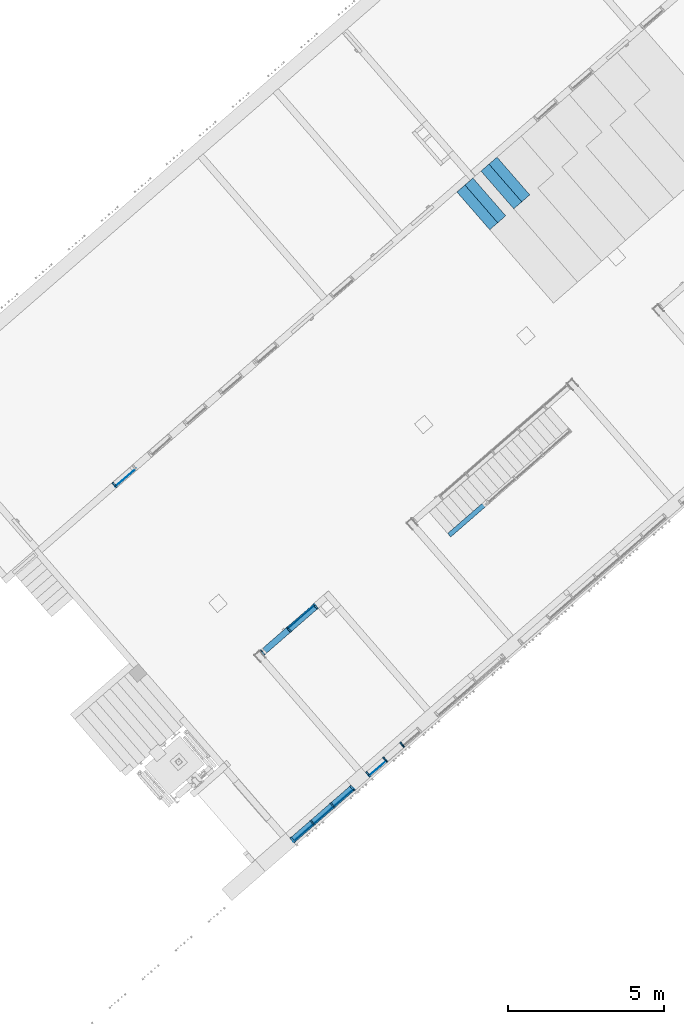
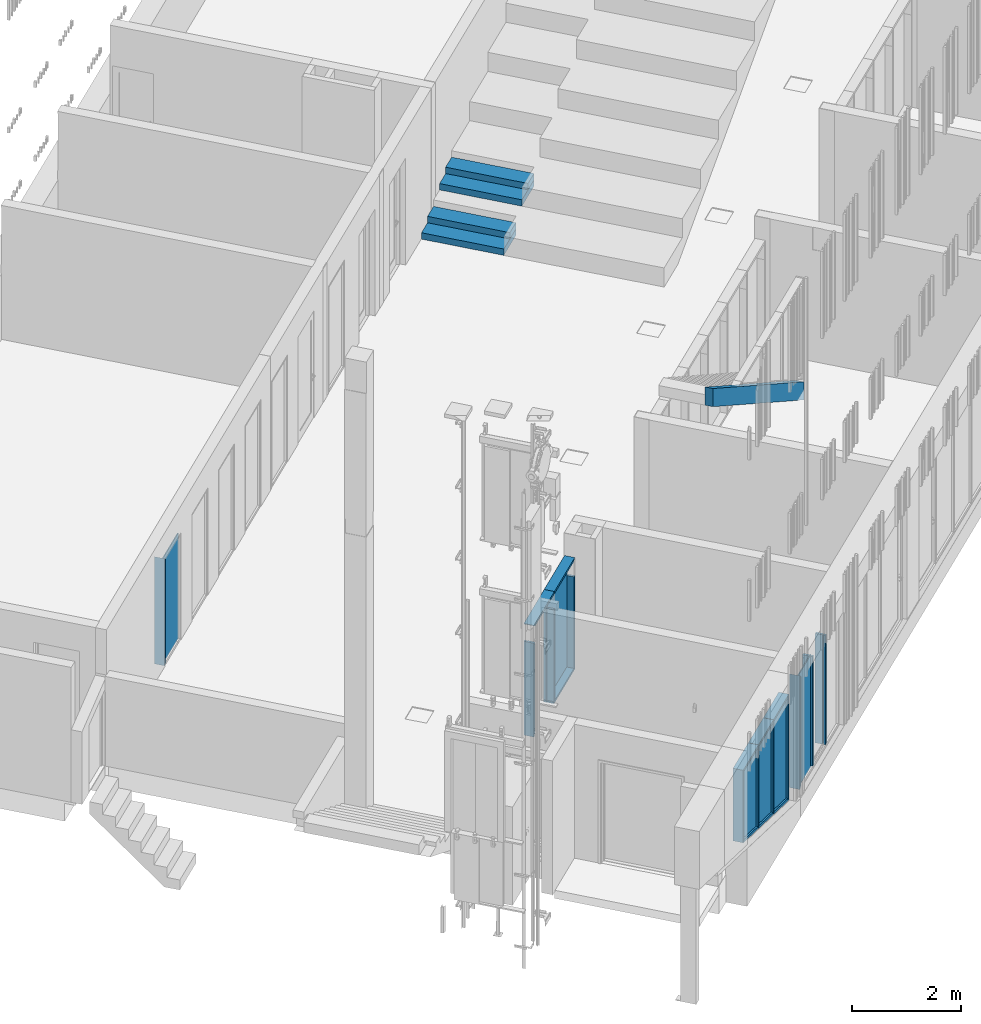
# One storey, part 5 of 124: 26 discrete accessories, 5 stairs, 5 elements without a shape of their own.
"""IFC2X3 building model written with IfcOpenShell, lengths in millimetres."""

from ifc_helpers import new_model, entity, si_unit, converted_unit, derived_unit, money_unit, direction, frame, origin_with_axes, place, context, subcontext, project, spatial, polyline, outline, extrude, clip, halfspace, faceted_brep, material, material_list, type_object, element, aggregate, save


model = new_model("IFC2X3")

# Units and contexts
model_context = context("Model", 3, precision=1e-05, world=origin_with_axes(), true_north=direction((0.0, 1.0)))
body_context = subcontext(model_context, "Body", "Model", "MODEL_VIEW")
ifc_project = project(units=[si_unit("LENGTHUNIT", "METRE", prefix="MILLI"), si_unit("AREAUNIT", "SQUARE_METRE"), si_unit("VOLUMEUNIT", "CUBIC_METRE"), converted_unit("PLANEANGLEUNIT", "DEGREE", entity("IfcPlaneAngleMeasure", 0.0174532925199), si_unit("PLANEANGLEUNIT", "RADIAN"), dimensions=[0, 0, 0, 0, 0, 0, 0]), si_unit("SOLIDANGLEUNIT", "STERADIAN"), money_unit("EUR"), converted_unit("TIMEUNIT", "Year", entity("IfcTimeMeasure", 31556926.0), si_unit("TIMEUNIT", "SECOND"), dimensions=[0, 0, 1, 0, 0, 0, 0]), si_unit("MASSUNIT", "GRAM", prefix="KILO"), si_unit("THERMODYNAMICTEMPERATUREUNIT", "DEGREE_CELSIUS"), si_unit("LUMINOUSINTENSITYUNIT", "LUMEN"), si_unit("ENERGYUNIT", "JOULE", prefix="MEGA"), derived_unit("THERMALCONDUCTANCEUNIT", [(si_unit("POWERUNIT", "WATT"), 1), (si_unit("LENGTHUNIT", "METRE"), -1), (si_unit("THERMODYNAMICTEMPERATUREUNIT", "KELVIN"), -1)]), derived_unit("SPECIFICHEATCAPACITYUNIT", [(si_unit("ENERGYUNIT", "JOULE"), 1), (si_unit("MASSUNIT", "GRAM", prefix="KILO"), -1), (si_unit("THERMODYNAMICTEMPERATUREUNIT", "KELVIN"), -1)]), derived_unit("MASSDENSITYUNIT", [(si_unit("MASSUNIT", "GRAM", prefix="KILO"), 1), (si_unit("VOLUMEUNIT", "CUBIC_METRE"), -1)])], contexts=[model_context])

# Site, building, storey
site_placement = place(None, origin_with_axes())
site = spatial("IfcSite", under=ifc_project, at=site_placement, Name="Site", CompositionType="ELEMENT")
building_placement = place(site_placement, origin_with_axes())
building = spatial("IfcBuilding", under=site, at=building_placement, Name="Building", CompositionType="ELEMENT")
storey_placement = place(building_placement, frame((0.0, 0.0, -1615.0), z_axis=(0.0, 0.0, 1.0), x_axis=(1.0, 0.0, 0.0)))
storey = spatial("IfcBuildingStorey", under=building, at=storey_placement, Name="0  korrus", CompositionType="ELEMENT", Elevation=-1615.0)

# Stairs
stair_1_placement = place(storey_placement, frame((159587.108778, 89137.2805139, 0.0), z_axis=(0.0, 0.0, 1.0), x_axis=(0.00233643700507, -0.999997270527, 0.0)))
stair_1 = element("IfcStair", 1, at=stair_1_placement, inside=storey, Name="T-05", ShapeType="NOTDEFINED")
ifc_material_1 = material(Name="GENEERILINE - KONSTRUKTRIOON")
stair_2_placement = place(stair_1_placement, origin_with_axes())
stair_2 = element("IfcStair", 2, at=stair_2_placement, material=ifc_material_1, Name="T-05", ShapeType="NOTDEFINED", context=body_context, shape_type="Brep", body=[
    faceted_brep([(3356.52774379, -3879.51305, 3007.98255963), (3356.52774379, -3879.51305, 3415.0), (0.0, 0.0, 170.75), (0.0, 0.0, -236.267440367), (3469.96379789, -3781.36896393, 3415.0), (3469.96379789, -3781.36896393, 3007.98255963), (113.436054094, 98.1440860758, 170.75), (113.436054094, 98.1440860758, -236.267440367)], [[[0, 1, 2, 3]], [[4, 1, 0, 5]], [[1, 4, 6, 2]], [[2, 6, 7, 3]], [[5, 0, 3, 7]], [[4, 5, 7, 6]]]),
])
aggregate(stair_1, [stair_2])

stair_3_placement = place(storey_placement, frame((156524.679636, 97141.5060753, 142.0), z_axis=(0.0, 0.0, 1.0), x_axis=(1.0, 0.0, 0.0)))
element("IfcStair", 3, at=stair_3_placement, inside=storey, material=ifc_material_1, Name="GENEERILINE - KONSTRUKTRIOON", ShapeType="NOTDEFINED", context=body_context, shape_type="SweptSolid", body=[
    extrude(outline(polyline([(0.0, 0.0), (-513.2025186, -446.120135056), (536.491914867, -1653.65547464), (1049.69443091, -1207.53533664), (0.0, 0.0)])), frame((0.0, 0.0, -142.0), z_axis=(0.0, 0.0, 1.0), x_axis=(1.0, 0.0, 0.0)), (0.0, 0.0, 1.0), 142.0),
])
stair_4_placement = place(storey_placement, frame((156524.679638, 97141.5060737, 284.0), z_axis=(0.0, 0.0, 1.0), x_axis=(1.0, 0.0, 0.0)))
element("IfcStair", 4, at=stair_4_placement, inside=storey, material=ifc_material_1, Name="GENEERILINE - KONSTRUKTRIOON", ShapeType="NOTDEFINED", context=body_context, shape_type="SweptSolid", body=[
    extrude(outline(polyline([(0.0, 0.0), (-256.601258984, -223.060067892), (793.093174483, -1430.59540748), (1049.6944295, -1207.53533502), (0.0, 0.0)])), frame((0.0, 0.0, -142.0), z_axis=(0.0, 0.0, 1.0), x_axis=(1.0, 0.0, 0.0)), (0.0, 0.0, 1.0), 142.0),
])
stair_5_placement = place(storey_placement, frame((157294.483414, 97810.686249, 568.875), z_axis=(0.0, 0.0, 1.0), x_axis=(1.0, 0.0, 0.0)))
element("IfcStair", 5, at=stair_5_placement, inside=storey, material=ifc_material_1, Name="GENEERILINE - KONSTRUKTRIOON", ShapeType="NOTDEFINED", context=body_context, shape_type="SweptSolid", body=[
    extrude(outline(polyline([(0.0, 0.0), (-513.2025186, -446.120135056), (536.491914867, -1653.65547464), (1049.69443091, -1207.53533664), (0.0, 0.0)])), frame((0.0, 0.0, -142.0), z_axis=(0.0, 0.0, 1.0), x_axis=(1.0, 0.0, 0.0)), (0.0, 0.0, 1.0), 142.0),
])
stair_6_placement = place(storey_placement, frame((157294.483416, 97810.6862474, 710.875), z_axis=(0.0, 0.0, 1.0), x_axis=(1.0, 0.0, 0.0)))
element("IfcStair", 6, at=stair_6_placement, inside=storey, material=ifc_material_1, Name="GENEERILINE - KONSTRUKTRIOON", ShapeType="NOTDEFINED", context=body_context, shape_type="SweptSolid", body=[
    extrude(outline(polyline([(0.0, 0.0), (-256.601258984, -223.060067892), (793.093174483, -1430.59540748), (1049.6944295, -1207.53533502), (0.0, 0.0)])), frame((0.0, 0.0, -142.0), z_axis=(0.0, 0.0, 1.0), x_axis=(1.0, 0.0, 0.0)), (0.0, 0.0, 1.0), 142.0),
])

# Curtain wall, discrete accessories
curtain_wall_type_1 = type_object("IfcCurtainWallType", Name="KS-07", PredefinedType="NOTDEFINED")
curtain_wall_1_placement = place(storey_placement, frame((145489.197566, 87628.0086428, -0.000131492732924), z_axis=(0.0, 0.0, 1.0), x_axis=(1.0, 0.0, 0.0)))
curtain_wall_1 = element("IfcCurtainWall", 7, at=curtain_wall_1_placement, inside=storey, type_object=curtain_wall_type_1, Name="Klaas-sein")
ifc_material_2 = material(Name="Klaas")
discrete_accessory_type_1 = type_object("IfcDiscreteAccessoryType", Name="Distinct Panel 730 x 2360 x 20")
discrete_accessory_1_placement = place(curtain_wall_1_placement, frame((0.0, 0.0, 1200.00000894), z_axis=(0.0, 0.0, 1.0), x_axis=(-0.754709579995, -0.656059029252, 0.0)))
discrete_accessory_1 = element("IfcDiscreteAccessory", 8, at=discrete_accessory_1_placement, type_object=discrete_accessory_type_1, material=ifc_material_2, Name="KS-07 klaaspakett", context=body_context, shape_type="SweptSolid", body=[
    extrude(outline(polyline([(-330.000032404, -1180.00000879), (530.000009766, -1180.00000879), (530.000009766, 1180.00000879), (-330.000032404, 1180.00000879), (-330.000032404, -1180.00000879)])), frame((0.0, -10.0, 0.0), z_axis=(0.0, 1.0, 0.0), x_axis=(1.0, 0.0, 0.0)), (0.0, 0.0, 1.0), 20.0),
])
ifc_material_3 = material(Name="Aluminium MUST")
ifc_material_list_1 = material_list([ifc_material_3, ifc_material_3, ifc_material_3])
discrete_accessory_type_2 = type_object("IfcDiscreteAccessoryType", Name="50 x 200")
discrete_accessory_2_placement = place(curtain_wall_1_placement, frame((-415.090276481, -360.832472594, 0.0), z_axis=(0.0, 0.0, 1.0), x_axis=(-0.754709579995, -0.656059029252, 0.0)))
discrete_accessory_2 = element("IfcDiscreteAccessory", 9, at=discrete_accessory_2_placement, type_object=discrete_accessory_type_2, material=ifc_material_list_1, Name="KS-07 profiil", context=body_context, shape_type="Clipping", body=[
    clip(clip(extrude(outline(polyline([(12.3071492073, 23.9485715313), (-6.56059029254, 7.54709579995), (6.56059029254, -7.54709579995), (25.4283297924, 8.85437993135), (12.3071492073, 23.9485715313)])), frame((0.0, 0.0, 0.0), z_axis=(0.0, 0.0, 1.0), x_axis=(-0.754709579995, 0.656059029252, 0.0)), (0.0, 0.0, 1.0), 2400.00001788), halfspace(frame((0.0, 0.0, 0.0), z_axis=(0.707106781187, 0.0, 0.707106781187), x_axis=(0.0, -1.0, 0.0)), True)), halfspace(frame((-1200.00000894, 0.0, 1200.00000894), z_axis=(0.707106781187, 0.0, -0.707106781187), x_axis=(0.0, 1.0, 0.0)), True)),
    clip(clip(extrude(outline(polyline([(-60.6733753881, 146.009388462), (-98.4088543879, 113.206436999), (-6.56059029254, 7.54709579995), (31.1748887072, 40.3500472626), (-60.6733753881, 146.009388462)])), frame((0.0, 0.0, 0.0), z_axis=(0.0, 0.0, 1.0), x_axis=(-0.754709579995, 0.656059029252, 0.0)), (0.0, 0.0, 1.0), 2400.00001788), halfspace(frame((0.0, 0.0, 0.0), z_axis=(0.707106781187, 0.0, 0.707106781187), x_axis=(0.0, -1.0, 0.0)), True)), halfspace(frame((-1200.00000894, 0.0, 1200.00000894), z_axis=(0.707106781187, 0.0, -0.707106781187), x_axis=(0.0, 1.0, 0.0)), True)),
    clip(clip(extrude(outline(polyline([(32.8029514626, -37.7354789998), (70.5384304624, -4.93252753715), (44.2960692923, 25.2558556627), (6.56059029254, -7.54709579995), (32.8029514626, -37.7354789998)])), frame((0.0, 0.0, 0.0), z_axis=(0.0, 0.0, 1.0), x_axis=(-0.754709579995, 0.656059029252, 0.0)), (0.0, 0.0, 1.0), 2400.00001788), halfspace(frame((0.0, 0.0, 0.0), z_axis=(0.707106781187, 0.0, 0.707106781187), x_axis=(0.0, -1.0, 0.0)), True)), halfspace(frame((-1200.00000894, 0.0, 1200.00000894), z_axis=(0.707106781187, 0.0, -0.707106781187), x_axis=(0.0, 1.0, 0.0)), True)),
])
aggregate(curtain_wall_1, [discrete_accessory_1, discrete_accessory_2])

curtain_wall_type_2 = type_object("IfcCurtainWallType", Name="KLF-07", PredefinedType="NOTDEFINED")
curtain_wall_2_placement = place(storey_placement, frame((152393.636083, 77319.0359362, 179.611883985), z_axis=(0.0, 0.0, 1.0), x_axis=(1.0, 0.0, 0.0)))
curtain_wall_2 = element("IfcCurtainWall", 10, at=curtain_wall_2_placement, inside=storey, type_object=curtain_wall_type_2, Name="Klaasfassaad")
discrete_accessory_type_3 = type_object("IfcDiscreteAccessoryType", Name="Distinct Panel 845 x 2079 x 20")
discrete_accessory_3_placement = place(curtain_wall_2_placement, frame((0.0, 0.0, 1247.63907863), z_axis=(0.0, 0.0, 1.0), x_axis=(-0.754709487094, -0.656059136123, 0.0)))
discrete_accessory_3 = element("IfcDiscreteAccessory", 11, at=discrete_accessory_3_placement, type_object=discrete_accessory_type_3, material=ifc_material_2, Name="KLF-07 klaaspakett", context=body_context, shape_type="SweptSolid", body=[
    extrude(outline(polyline([(-412.446964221, -1102.36088663), (432.446965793, -1102.36088663), (432.446965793, 976.260358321), (-412.446964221, 1221.02280493), (-412.446964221, -1102.36088663)])), frame((0.0, -9.99999999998, 0.0), z_axis=(0.0, 1.0, 0.0), x_axis=(1.0, 0.0, 0.0)), (0.0, 0.0, 1.0), 20.0),
])
discrete_accessory_type_4 = type_object("IfcDiscreteAccessoryType", Name="Distinct Panel 850 x 1832 x 20")
discrete_accessory_4_placement = place(curtain_wall_2_placement, frame((-647.123359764, -562.53591565, 1371.83855172), z_axis=(0.0, 0.0, 1.0), x_axis=(-0.754709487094, -0.656059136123, 0.0)))
discrete_accessory_4 = element("IfcDiscreteAccessory", 12, at=discrete_accessory_4_placement, type_object=discrete_accessory_type_4, material=ifc_material_2, Name="KLF-07 klaaspakett", context=body_context, shape_type="SweptSolid", body=[
    extrude(outline(polyline([(-425.000005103, -978.161405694), (425.000000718, -978.161405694), (425.000000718, 854.21832759), (-425.000005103, 1100.45984919), (-425.000005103, -978.161405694)])), frame((0.0, -10.0, 0.0), z_axis=(0.0, 1.0, 0.0), x_axis=(1.0, 0.0, 0.0)), (0.0, 0.0, 1.0), 20.0),
])
discrete_accessory_type_5 = type_object("IfcDiscreteAccessoryType", Name="Distinct Panel 845 x 1832 x 20")
discrete_accessory_5_placement = place(curtain_wall_2_placement, frame((-1294.3031102, -1125.12085098, 1496.05222112), z_axis=(0.0, 0.0, 1.0), x_axis=(-0.754709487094, -0.656059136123, 0.0)))
discrete_accessory_5 = element("IfcDiscreteAccessory", 13, at=discrete_accessory_5_placement, type_object=discrete_accessory_type_5, material=ifc_material_2, Name="KLF-07 klaaspakett", context=body_context, shape_type="SweptSolid", body=[
    extrude(outline(polyline([(-432.521693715, -853.947756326), (412.475697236, -853.947756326), (412.567977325, 733.613027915), (-432.521693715, 978.431993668), (-432.521693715, -853.947756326)])), frame((0.0, -10.0, 0.0), z_axis=(0.0, 1.0, 0.0), x_axis=(1.0, 0.0, 0.0)), (0.0, 0.0, 1.0), 20.0),
])
discrete_accessory_type_6 = type_object("IfcDiscreteAccessoryType", Name="50 x 200")
discrete_accessory_6_placement = place(curtain_wall_2_placement, frame((-1620.76691408, -1408.91158743, 747.411051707), z_axis=(0.724903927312, 0.630149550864, -0.278254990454), x_axis=(0.210001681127, 0.182551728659, 0.960507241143)))
discrete_accessory_6 = element("IfcDiscreteAccessory", 14, at=discrete_accessory_6_placement, type_object=discrete_accessory_type_6, material=ifc_material_3, Name="KLF-07 profiil", context=body_context, shape_type="Clipping", body=[
    clip(extrude(outline(polyline([(-10.0, -25.0), (10.0, -25.0), (9.99999999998, -50.0), (50.0, -50.0), (50.0, 0.0), (-150.0, 0.0), (-150.0, -50.0), (-10.0, -50.0), (-10.0, -25.0)])), frame((0.0, 0.0, 0.0), z_axis=(0.0, 0.0, 1.0), x_axis=(0.0, 1.0, 0.0)), (0.0, 0.0, 1.0), 900.660071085), halfspace(frame((0.0, 0.0, 0.0), z_axis=(-0.600749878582, 0.0, 0.799437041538), x_axis=(0.0, -1.0, 0.0)), True)),
])
discrete_accessory_7_placement = place(curtain_wall_2_placement, frame((-326.371827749, -283.710782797, 2369.9999702), z_axis=(-0.754709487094, -0.656059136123, 0.0), x_axis=(0.0, 0.0, -1.0)))
discrete_accessory_7 = element("IfcDiscreteAccessory", 15, at=discrete_accessory_7_placement, type_object=discrete_accessory_type_6, material=ifc_material_3, Name="KLF-07 profiil", context=body_context, shape_type="SweptSolid", body=[
    extrude(outline(polyline([(9.99999999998, 25.0), (-10.0, 25.0), (-10.0, 50.0), (-50.0, 50.0), (-50.0, 0.0), (150.0, 0.0), (150.0, 50.0), (9.99999999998, 50.0), (9.99999999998, 25.0)])), frame((0.0, 0.0, 0.0), z_axis=(0.0, 0.0, 1.0), x_axis=(0.0, -1.0, 0.0)), (0.0, 0.0, 1.0), 850.0),
])
discrete_accessory_8_placement = place(curtain_wall_2_placement, frame((326.371827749, 283.710782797, 0.0), z_axis=(0.0, 0.0, 1.0), x_axis=(-0.754709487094, -0.656059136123, 0.0)))
discrete_accessory_8 = element("IfcDiscreteAccessory", 16, at=discrete_accessory_8_placement, type_object=discrete_accessory_type_6, material=ifc_material_3, Name="KLF-07 profiil", context=body_context, shape_type="Clipping", body=[
    clip(clip(extrude(outline(polyline([(-25.4283285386, -8.85438353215), (-12.3071458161, -23.948573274), (-31.1748829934, -40.3500516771), (-4.9325175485, -70.5384311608), (32.8029568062, -37.7354743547), (-98.4088704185, 113.206423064), (-136.144344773, 80.4034662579), (-44.2960657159, -25.2558619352), (-25.4283285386, -8.85438353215)])), frame((0.0, 0.0, 0.0), z_axis=(0.0, 0.0, 1.0), x_axis=(-0.754709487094, 0.656059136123, 0.0)), (0.0, 0.0, 1.0), 2369.9999702), halfspace(frame((1184.9999851, 0.0, 1184.9999851), z_axis=(-0.707106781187, 0.0, -0.707106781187), x_axis=(0.0, 1.0, 0.0)), True)), halfspace(frame((0.0, 0.0, 0.0), z_axis=(-0.799454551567, 0.0, 0.600726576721), x_axis=(0.0, -1.0, 0.0)), True)),
])
discrete_accessory_9_placement = place(curtain_wall_2_placement, frame((-967.874891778, -841.361048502, 496.797892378), z_axis=(0.724903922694, 0.630149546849, -0.27825501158), x_axis=(0.210001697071, 0.182551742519, 0.960507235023)))
discrete_accessory_9 = element("IfcDiscreteAccessory", 17, at=discrete_accessory_9_placement, type_object=discrete_accessory_type_6, material=ifc_material_3, Name="KLF-07 profiil", context=body_context, shape_type="SweptSolid", body=[
    extrude(outline(polyline([(-9.99999999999, -25.0), (10.0, -25.0), (10.0, -50.0), (50.0, -50.0), (50.0, 0.0), (-150.0, 0.0), (-150.0, -50.0), (-9.99999999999, -50.0), (-9.99999999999, -25.0)])), frame((0.0, 0.0, -5.49846390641e-07), z_axis=(0.0, 0.0, 1.0), x_axis=(0.0, 1.0, 0.0)), (0.0, 0.0, 1.0), 884.949090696),
])
ifc_material_list_2 = material_list([ifc_material_3, ifc_material_3])
discrete_accessory_10_placement = place(curtain_wall_2_placement, frame((-967.874891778, -841.361048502, 496.797892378), z_axis=(0.0, 0.0, 1.0), x_axis=(-0.754709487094, -0.656059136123, 0.0)))
discrete_accessory_10 = element("IfcDiscreteAccessory", 18, at=discrete_accessory_10_placement, type_object=discrete_accessory_type_6, material=ifc_material_list_2, Name="KLF-07 profiil", context=body_context, shape_type="Clipping", body=[
    clip(extrude(outline(polyline([(-117.276607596, 96.8049446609), (-25.4283285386, -8.85438353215), (12.3071458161, 23.948573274), (-79.5411332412, 129.607901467), (-117.276607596, 96.8049446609)])), frame((0.0, 0.0, 44.8134310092), z_axis=(0.0, 0.0, 1.0), x_axis=(-0.754709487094, 0.656059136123, 0.0)), (0.0, 0.0, 1.0), 1778.38864681), halfspace(frame((-13.912750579, 0.0, 48.0253617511), z_axis=(-0.27825501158, 0.0, 0.960507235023), x_axis=(0.0, -1.0, 0.0)), True)),
    clip(extrude(outline(polyline([(51.6706939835, -21.3339959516), (25.4283285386, 8.85438353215), (-12.3071458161, -23.948573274), (13.9352196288, -54.1369527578), (51.6706939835, -21.3339959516)])), frame((0.0, 0.0, 44.8134310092), z_axis=(0.0, 0.0, 1.0), x_axis=(-0.754709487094, 0.656059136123, 0.0)), (0.0, 0.0, 1.0), 1778.38864681), halfspace(frame((-13.912750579, 0.0, 48.0253617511), z_axis=(-0.27825501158, 0.0, 0.960507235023), x_axis=(0.0, -1.0, 0.0)), True)),
])
discrete_accessory_11_placement = place(curtain_wall_2_placement, frame((-326.371827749, -283.710782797, 250.556374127), z_axis=(0.724903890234, 0.630149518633, -0.278255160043), x_axis=(0.210001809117, 0.18255183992, 0.960507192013)))
discrete_accessory_11 = element("IfcDiscreteAccessory", 19, at=discrete_accessory_11_placement, type_object=discrete_accessory_type_6, material=ifc_material_3, Name="KLF-07 profiil", context=body_context, shape_type="Clipping", body=[
    clip(extrude(outline(polyline([(-10.0, -25.0), (9.99999999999, -25.0), (10.0, -50.0), (50.0, -50.0), (50.0, 0.0), (-150.0, 0.0), (-150.0, -50.0), (-10.0, -50.0), (-10.0, -25.0)])), frame((0.0, 0.0, -3.86424403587e-06), z_axis=(0.0, 0.0, 1.0), x_axis=(0.0, 1.0, 0.0)), (0.0, 0.0, 1.0), 900.455449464), halfspace(frame((432.446965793, 0.0, 324.949535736), z_axis=(-0.799454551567, 0.0, -0.600726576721), x_axis=(0.0, 1.0, 0.0)), True)),
])
discrete_accessory_12_placement = place(curtain_wall_2_placement, frame((-967.874891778, -841.361048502, 2369.9999702), z_axis=(-0.754709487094, -0.656059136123, 0.0), x_axis=(0.0, 0.0, -1.0)))
discrete_accessory_12 = element("IfcDiscreteAccessory", 20, at=discrete_accessory_12_placement, type_object=discrete_accessory_type_6, material=ifc_material_3, Name="KLF-07 profiil", context=body_context, shape_type="Clipping", body=[
    clip(extrude(outline(polyline([(10.0, 25.0), (-10.0, 25.0), (-10.0, 50.0), (-50.0, 50.0), (-50.0, 0.0), (150.0, 0.0), (150.0, 50.0), (10.0, 50.0), (10.0, 25.0)])), frame((0.0, 0.0, 0.0), z_axis=(0.0, 0.0, 1.0), x_axis=(0.0, -1.0, 0.0)), (0.0, 0.0, 1.0), 864.996217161), halfspace(frame((432.49810785, 0.0, 432.523244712), z_axis=(-0.707086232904, 0.0, -0.707127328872), x_axis=(0.0, 1.0, 0.0)), True)),
])
discrete_accessory_13_placement = place(curtain_wall_2_placement, frame((-326.371827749, -283.710782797, 250.556374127), z_axis=(0.0, 0.0, 1.0), x_axis=(-0.754709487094, -0.656059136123, 0.0)))
discrete_accessory_13 = element("IfcDiscreteAccessory", 21, at=discrete_accessory_13_placement, type_object=discrete_accessory_type_6, material=ifc_material_list_2, Name="KLF-07 profiil", context=body_context, shape_type="Clipping", body=[
    clip(extrude(outline(polyline([(-117.276607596, 96.804944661), (-25.4283285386, -8.85438353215), (12.3071458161, 23.948573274), (-79.5411332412, 129.607901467), (-117.276607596, 96.804944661)])), frame((0.0, 0.0, 44.8134291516), z_axis=(0.0, 0.0, 1.0), x_axis=(-0.754709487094, 0.656059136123, 0.0)), (0.0, 0.0, 1.0), 2024.63016692), halfspace(frame((-13.9127580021, 0.0, 48.0253596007), z_axis=(-0.278255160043, 0.0, 0.960507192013), x_axis=(0.0, -1.0, 0.0)), True)),
    clip(extrude(outline(polyline([(51.6706939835, -21.3339959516), (25.4283285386, 8.85438353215), (-12.3071458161, -23.948573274), (13.9352196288, -54.1369527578), (51.6706939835, -21.3339959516)])), frame((0.0, 0.0, 44.8134291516), z_axis=(0.0, 0.0, 1.0), x_axis=(-0.754709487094, 0.656059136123, 0.0)), (0.0, 0.0, 1.0), 2024.63016692), halfspace(frame((-13.9127580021, 0.0, 48.0253596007), z_axis=(-0.278255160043, 0.0, 0.960507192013), x_axis=(0.0, -1.0, 0.0)), True)),
])
discrete_accessory_14_placement = place(curtain_wall_2_placement, frame((-1620.69574317, -1408.84971948, 2369.9999702), z_axis=(-4.38625655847e-05, -3.812915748e-05, -0.999999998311), x_axis=(0.754709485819, 0.656059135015, -5.81184764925e-05)))
discrete_accessory_14 = element("IfcDiscreteAccessory", 22, at=discrete_accessory_14_placement, type_object=discrete_accessory_type_6, material=ifc_material_3, Name="KLF-07 profiil", context=body_context, shape_type="Clipping", body=[
    clip(clip(extrude(outline(polyline([(10.0000000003, 24.9999999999), (-9.99999999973, 25.0000000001), (-9.99999999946, 50.0000000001), (-49.9999999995, 50.0000000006), (-50.0, 5.68434188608e-10), (150.0, -1.62003743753e-09), (150.000000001, 49.9999999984), (10.0000000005, 49.9999999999), (10.0000000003, 24.9999999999)])), frame((0.0, 0.0, 0.0), z_axis=(0.0, 0.0, 1.0), x_axis=(0.0, -1.0, 0.0)), (0.0, 0.0, 1.0), 1622.58892123), halfspace(frame((779.26732286, 0.0, 1036.99590356), z_axis=(-0.600749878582, 0.0, -0.799437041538), x_axis=(0.0, 1.0, 0.0)), True)), halfspace(frame((0.0, 0.0, 0.0), z_axis=(-0.707086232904, 0.0, 0.707127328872), x_axis=(0.0, -1.0, 0.0)), True)),
])
discrete_accessory_15_placement = place(curtain_wall_2_placement, frame((326.371827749, 283.710782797, 2369.9999702), z_axis=(-0.754709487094, -0.656059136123, 0.0), x_axis=(0.0, 0.0, -1.0)))
discrete_accessory_15 = element("IfcDiscreteAccessory", 23, at=discrete_accessory_15_placement, type_object=discrete_accessory_type_6, material=ifc_material_3, Name="KLF-07 profiil", context=body_context, shape_type="Clipping", body=[
    clip(extrude(outline(polyline([(10.0, 25.0), (-9.99999999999, 25.0), (-9.99999999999, 50.0), (-50.0, 50.0), (-50.0, 0.0), (150.0, 0.0), (150.0, 50.0), (10.0, 50.0), (10.0, 25.0)])), frame((0.0, 0.0, 0.0), z_axis=(0.0, 0.0, 1.0), x_axis=(0.0, -1.0, 0.0)), (0.0, 0.0, 1.0), 864.893931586), halfspace(frame((0.0, 0.0, 0.0), z_axis=(-0.707106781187, 0.0, 0.707106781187), x_axis=(0.0, -1.0, 0.0)), True)),
])
aggregate(curtain_wall_2, [discrete_accessory_3, discrete_accessory_4, discrete_accessory_5, discrete_accessory_6, discrete_accessory_7, discrete_accessory_8, discrete_accessory_9, discrete_accessory_10, discrete_accessory_11, discrete_accessory_12, discrete_accessory_13, discrete_accessory_14, discrete_accessory_15])

curtain_wall_type_3 = type_object("IfcCurtainWallType", Name="KS-15", PredefinedType="NOTDEFINED")
curtain_wall_3_placement = place(storey_placement, frame((150122.79939, 82314.5956207, -1.19209395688e-05), z_axis=(0.0, 0.0, 1.0), x_axis=(1.0, 0.0, 0.0)))
curtain_wall_3 = element("IfcCurtainWall", 24, at=curtain_wall_3_placement, inside=storey, type_object=curtain_wall_type_3, Name="Klaas-sein")
discrete_accessory_type_7 = type_object("IfcDiscreteAccessoryType", Name="Distinct Panel 1130 x 380 x 20")
discrete_accessory_16_placement = place(curtain_wall_3_placement, frame((916.133959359, 796.383015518, 1533.33334062), z_axis=(0.0, 0.0, 1.0), x_axis=(-0.754709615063, -0.656058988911, 0.0)))
discrete_accessory_16 = element("IfcDiscreteAccessory", 25, at=discrete_accessory_16_placement, type_object=discrete_accessory_type_7, material=ifc_material_2, Name="KS-15 klaaspakett", context=body_context, shape_type="SweptSolid", body=[
    extrude(outline(polyline([(-555.000472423, -946.666684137), (575.000441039, -946.666684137), (575.000441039, 1513.33335544), (-555.000472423, 1513.33335544), (-555.000472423, -946.666684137)])), frame((0.0, -9.99999999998, 0.0), z_axis=(0.0, 1.0, 0.0), x_axis=(1.0, 0.0, 0.0)), (0.0, 0.0, 1.0), 20.0),
])
discrete_accessory_type_8 = type_object("IfcDiscreteAccessoryType", Name="50 x 200")
discrete_accessory_17_placement = place(curtain_wall_3_placement, frame((482.17558658, 419.148797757, 0.0), z_axis=(0.754709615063, 0.656058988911, 0.0), x_axis=(0.0, 0.0, 1.0)))
discrete_accessory_17 = element("IfcDiscreteAccessory", 26, at=discrete_accessory_17_placement, type_object=discrete_accessory_type_8, material=ifc_material_3, Name="KS-15 profiil", context=body_context, shape_type="Clipping", body=[
    clip(extrude(outline(polyline([(9.99999999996, -25.0), (9.99999999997, -50.0), (150.0, -50.0), (150.0, 0.0), (-50.0, 0.0), (-50.0, -50.0), (-10.0, -50.0), (-10.0, -25.0), (9.99999999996, -25.0)])), frame((0.0, 0.0, -25.0), z_axis=(0.0, 0.0, 1.0), x_axis=(0.0, 1.0, 0.0)), (0.0, 0.0, 1.0), 1175.00091192), halfspace(frame((575.00045596, 0.0, 575.00045596), z_axis=(-0.707106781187, 0.0, -0.707106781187), x_axis=(0.0, 1.0, 0.0)), True)),
])
discrete_accessory_18_placement = place(curtain_wall_3_placement, frame((1350.09233214, 1173.61723328, 2500.00000993), z_axis=(-0.754709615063, -0.656058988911, 0.0), x_axis=(0.0, 0.0, -1.0)))
discrete_accessory_18 = element("IfcDiscreteAccessory", 27, at=discrete_accessory_18_placement, type_object=discrete_accessory_type_8, material=ifc_material_3, Name="KS-15 profiil", context=body_context, shape_type="Clipping", body=[
    clip(extrude(outline(polyline([(-10.0, 25.0), (-10.0, 50.0), (-150.0, 50.0), (-150.0, 0.0), (50.0, 0.0), (50.0, 50.0), (10.0, 50.0), (10.0, 25.0), (-10.0, 25.0)])), frame((0.0, 0.0, 0.0), z_axis=(0.0, 0.0, 1.0), x_axis=(0.0, -1.0, 0.0)), (0.0, 0.0, 1.0), 1150.00091192), halfspace(frame((0.0, 0.0, 0.0), z_axis=(-0.707106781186, 0.0, 0.707106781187), x_axis=(0.0, -1.0, 0.0)), True)),
])
discrete_accessory_19_placement = place(curtain_wall_3_placement, frame((-385.740470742, -335.319039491, 0.0), z_axis=(0.0, 0.0, 1.0), x_axis=(-0.754709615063, -0.656058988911, 0.0)))
discrete_accessory_19 = element("IfcDiscreteAccessory", 28, at=discrete_accessory_19_placement, type_object=discrete_accessory_type_8, material=ifc_material_3, Name="KS-15 profiil", context=body_context, shape_type="Clipping", body=[
    clip(extrude(outline(polyline([(25.4283302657, 8.85437857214), (12.3071504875, 23.9485708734), (31.174890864, 40.3500455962), (4.93253130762, 70.5384301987), (-32.8029494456, 37.7354807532), (98.4088483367, -113.206442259), (136.14432909, -80.4034928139), (44.2960706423, 25.2558532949), (25.4283302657, 8.85437857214)])), frame((0.0, 0.0, 0.0), z_axis=(0.0, 0.0, 1.0), x_axis=(-0.754709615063, 0.656058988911, 0.0)), (0.0, 0.0, 1.0), 2100.00001192), halfspace(frame((0.0, 0.0, 0.0), z_axis=(0.707106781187, 0.0, 0.707106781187), x_axis=(0.0, -1.0, 0.0)), True)),
])
discrete_accessory_20_placement = place(curtain_wall_3_placement, frame((482.17558658, 419.148797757, 0.0), z_axis=(0.0, 0.0, 1.0), x_axis=(-0.754709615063, -0.656058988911, 0.0)))
discrete_accessory_20 = element("IfcDiscreteAccessory", 29, at=discrete_accessory_20_placement, type_object=discrete_accessory_type_8, material=ifc_material_list_2, Name="KS-15 profiil", context=body_context, shape_type="SweptSolid", body=[
    extrude(outline(polyline([(-12.3071504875, -23.9485708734), (79.5411079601, -129.607916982), (117.276588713, -96.8049675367), (25.4283302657, 8.85437857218), (-12.3071504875, -23.9485708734)])), frame((0.0, 0.0, 50.0), z_axis=(0.0, 0.0, 1.0), x_axis=(-0.754709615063, 0.656058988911, 0.0)), (0.0, 0.0, 1.0), 2050.00001192),
    extrude(outline(polyline([(12.3071504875, 23.9485708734), (-13.935209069, 54.136955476), (-51.6706898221, 21.3340060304), (-25.4283302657, -8.85437857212), (12.3071504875, 23.9485708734)])), frame((0.0, 0.0, 50.0), z_axis=(0.0, 0.0, 1.0), x_axis=(-0.754709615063, 0.656058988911, 0.0)), (0.0, 0.0, 1.0), 2050.00001192),
])
discrete_accessory_21_placement = place(curtain_wall_3_placement, frame((1350.09233214, 1173.61723328, 0.0), z_axis=(0.0, 0.0, 1.0), x_axis=(-0.754709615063, -0.656058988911, 0.0)))
discrete_accessory_21 = element("IfcDiscreteAccessory", 30, at=discrete_accessory_21_placement, type_object=discrete_accessory_type_8, material=ifc_material_3, Name="KS-15 profiil", context=body_context, shape_type="Clipping", body=[
    clip(extrude(outline(polyline([(-12.3071504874, -23.9485708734), (-31.174890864, -40.3500455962), (60.6733675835, -146.009391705), (98.4088483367, -113.206442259), (-32.8029494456, 37.7354807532), (-70.5384301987, 4.93253130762), (-44.2960706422, -25.2558532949), (-25.4283302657, -8.85437857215), (-12.3071504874, -23.9485708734)])), frame((0.0, 0.0, 0.0), z_axis=(0.0, 0.0, 1.0), x_axis=(-0.754709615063, 0.656058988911, 0.0)), (0.0, 0.0, 1.0), 2100.00001192), halfspace(frame((0.0, 0.0, 0.0), z_axis=(-0.707106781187, 0.0, 0.707106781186), x_axis=(0.0, -1.0, 0.0)), True)),
])
discrete_accessory_22_placement = place(curtain_wall_3_placement, frame((482.17558658, 419.148797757, 2500.00000993), z_axis=(-0.754709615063, -0.656058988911, 0.0), x_axis=(0.0, 0.0, -1.0)))
discrete_accessory_22 = element("IfcDiscreteAccessory", 31, at=discrete_accessory_22_placement, type_object=discrete_accessory_type_8, material=ifc_material_3, Name="KS-15 profiil", context=body_context, shape_type="Clipping", body=[
    clip(extrude(outline(polyline([(-10.0, 25.0), (-10.0, 50.0), (-150.0, 50.0), (-150.0, 0.0), (50.0, 0.0), (50.0, 50.0), (9.99999999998, 50.0), (10.0, 25.0), (-10.0, 25.0)])), frame((0.0, 0.0, 0.0), z_axis=(0.0, 0.0, 1.0), x_axis=(0.0, -1.0, 0.0)), (0.0, 0.0, 1.0), 1150.0), halfspace(frame((575.0, 0.0, 575.0), z_axis=(-0.707106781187, 0.0, -0.707106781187), x_axis=(0.0, 1.0, 0.0)), True)),
])
aggregate(curtain_wall_3, [discrete_accessory_16, discrete_accessory_17, discrete_accessory_18, discrete_accessory_19, discrete_accessory_20, discrete_accessory_21, discrete_accessory_22])

curtain_wall_type_4 = type_object("IfcCurtainWallType", Name="KLF-06", PredefinedType="NOTDEFINED")
curtain_wall_4_placement = place(storey_placement, frame((153469.056116, 78253.8889067, 0.0), z_axis=(0.0, 0.0, 1.0), x_axis=(1.0, 0.0, 0.0)))
curtain_wall_4 = element("IfcCurtainWall", 32, at=curtain_wall_4_placement, inside=storey, type_object=curtain_wall_type_4, Name="Klaasfassaad")
discrete_accessory_type_9 = type_object("IfcDiscreteAccessoryType", Name="Distinct Panel 725 x 2510 x 20")
discrete_accessory_23_placement = place(curtain_wall_4_placement, frame((0.0, 0.0, 1275.00000939), z_axis=(0.0, 0.0, 1.0), x_axis=(-0.754710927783, -0.656057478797, 0.0)))
discrete_accessory_23 = element("IfcDiscreteAccessory", 33, at=discrete_accessory_23_placement, type_object=discrete_accessory_type_9, material=ifc_material_2, Name="KLF-06 klaaspakett", context=body_context, shape_type="SweptSolid", body=[
    extrude(outline(polyline([(-372.499987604, -1254.99999136), (352.499981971, -1254.99999136), (352.499981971, 1254.99999136), (-372.499987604, 1254.99999136), (-372.499987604, -1254.99999136)])), frame((0.0, -10.0, 0.0), z_axis=(0.0, 1.0, 0.0), x_axis=(1.0, 0.0, 0.0)), (0.0, 0.0, 1.0), 20.0),
])
discrete_accessory_type_10 = type_object("IfcDiscreteAccessoryType", Name="50 x 200")
discrete_accessory_24_placement = place(curtain_wall_4_placement, frame((-281.129820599, -244.381410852, 0.0), z_axis=(0.0, 0.0, 1.0), x_axis=(-0.754710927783, -0.656057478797, 0.0)))
discrete_accessory_24 = element("IfcDiscreteAccessory", 34, at=discrete_accessory_24_placement, type_object=discrete_accessory_type_10, material=ifc_material_list_1, Name="KLF-06 profiil", context=body_context, shape_type="Clipping", body=[
    clip(clip(extrude(outline(polyline([(12.3071984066, 23.9485462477), (-6.56057478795, 7.54710927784), (6.56057478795, -7.54710927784), (25.4283479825, 8.85432769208), (12.3071984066, 23.9485462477)])), frame((0.0, 0.0, 0.0), z_axis=(0.0, 0.0, 1.0), x_axis=(-0.754710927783, 0.656057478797, 0.0)), (0.0, 0.0, 1.0), 2550.00001878), halfspace(frame((0.0, 0.0, 0.0), z_axis=(0.707106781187, 0.0, 0.707106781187), x_axis=(0.0, -1.0, 0.0)), True)), halfspace(frame((-1275.00000939, 0.0, 1275.00000939), z_axis=(0.707106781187, 0.0, -0.707106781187), x_axis=(0.0, 1.0, 0.0)), True)),
    clip(clip(extrude(outline(polyline([(-60.6730754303, 146.009513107), (-98.4086218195, 113.206639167), (-6.56057478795, 7.54710927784), (31.1749716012, 40.3499832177), (-60.6730754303, 146.009513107)])), frame((0.0, 0.0, 0.0), z_axis=(0.0, 0.0, 1.0), x_axis=(-0.754710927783, 0.656057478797, 0.0)), (0.0, 0.0, 1.0), 2550.00001878), halfspace(frame((0.0, 0.0, 0.0), z_axis=(0.707106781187, 0.0, 0.707106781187), x_axis=(0.0, -1.0, 0.0)), True)), halfspace(frame((-1275.00000939, 0.0, 1275.00000939), z_axis=(0.707106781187, 0.0, -0.707106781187), x_axis=(0.0, 1.0, 0.0)), True)),
    clip(clip(extrude(outline(polyline([(32.8028739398, -37.7355463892), (70.538420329, -4.93267244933), (44.2961211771, 25.255764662), (6.56057478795, -7.54710927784), (32.8028739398, -37.7355463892)])), frame((0.0, 0.0, 0.0), z_axis=(0.0, 0.0, 1.0), x_axis=(-0.754710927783, 0.656057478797, 0.0)), (0.0, 0.0, 1.0), 2550.00001878), halfspace(frame((0.0, 0.0, 0.0), z_axis=(0.707106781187, 0.0, 0.707106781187), x_axis=(0.0, -1.0, 0.0)), True)), halfspace(frame((-1275.00000939, 0.0, 1275.00000939), z_axis=(0.707106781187, 0.0, -0.707106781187), x_axis=(0.0, 1.0, 0.0)), True)),
])
discrete_accessory_25_placement = place(curtain_wall_4_placement, frame((824.521688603, 716.742795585, 0.0), z_axis=(0.0, 0.0, 1.0), x_axis=(-0.754710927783, -0.656057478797, 0.0)))
discrete_accessory_25 = element("IfcDiscreteAccessory", 35, at=discrete_accessory_25_placement, type_object=discrete_accessory_type_10, material=ifc_material_list_2, Name="KLF-06 profiil", context=body_context, shape_type="SweptSolid", body=[
    extrude(outline(polyline([(12.3071984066, 23.9485462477), (-79.5408486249, 129.608076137), (-117.276395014, 96.8052021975), (-25.4283479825, -8.85432769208), (12.3071984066, 23.9485462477)])), frame((0.0, 0.0, 50.0), z_axis=(0.0, 0.0, 1.0), x_axis=(-0.754710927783, 0.656057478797, 0.0)), (0.0, 0.0, 1.0), 2450.00001878),
    extrude(outline(polyline([(25.4283479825, 8.85432769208), (-12.3071984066, -23.9485462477), (13.9351007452, -54.1369833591), (51.6706471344, -21.3341094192), (25.4283479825, 8.85432769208)])), frame((0.0, 0.0, 50.0), z_axis=(0.0, 0.0, 1.0), x_axis=(-0.754710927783, 0.656057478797, 0.0)), (0.0, 0.0, 1.0), 2450.00001878),
])
discrete_accessory_26_placement = place(curtain_wall_4_placement, frame((281.129820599, 244.381410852, 0.0), z_axis=(0.0, 0.0, 1.0), x_axis=(-0.754710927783, -0.656057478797, 0.0)))
discrete_accessory_26 = element("IfcDiscreteAccessory", 36, at=discrete_accessory_26_placement, type_object=discrete_accessory_type_10, material=ifc_material_list_2, Name="KLF-06 profiil", context=body_context, shape_type="SweptSolid", body=[
    extrude(outline(polyline([(12.3071984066, 23.9485462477), (-79.5408486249, 129.608076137), (-117.276395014, 96.8052021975), (-25.4283479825, -8.85432769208), (12.3071984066, 23.9485462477)])), frame((0.0, 0.0, 50.0), z_axis=(0.0, 0.0, 1.0), x_axis=(-0.754710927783, 0.656057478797, 0.0)), (0.0, 0.0, 1.0), 2450.00001878),
    extrude(outline(polyline([(25.4283479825, 8.85432769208), (-12.3071984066, -23.9485462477), (13.9351007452, -54.1369833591), (51.6706471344, -21.3341094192), (25.4283479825, 8.85432769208)])), frame((0.0, 0.0, 50.0), z_axis=(0.0, 0.0, 1.0), x_axis=(-0.754710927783, 0.656057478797, 0.0)), (0.0, 0.0, 1.0), 2450.00001878),
])
aggregate(curtain_wall_4, [discrete_accessory_23, discrete_accessory_24, discrete_accessory_25, discrete_accessory_26])

save(model, "model.ifc")
